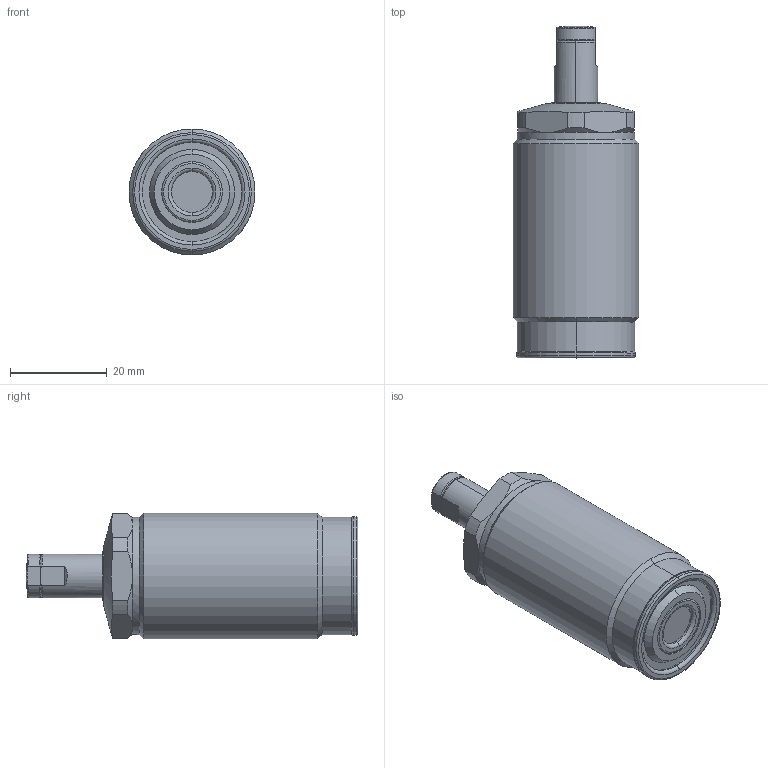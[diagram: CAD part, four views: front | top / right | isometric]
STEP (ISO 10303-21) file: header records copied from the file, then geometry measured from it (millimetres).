
FILE_DESCRIPTION(/* description */ (''),/* implementation_level */ '2;1');
FILE_NAME(/* name */ 'TNE26.stp',/* time_stamp */ '2025-01-09T15:36:08+08:00',/* author */ (''),/* organization */ (''),/* preprocessor_version */ 'ST-DEVELOPER v16.7',/* originating_system */ 'SIEMENS PLM Software NX 12.0',/* authorisation */ '');
FILE_SCHEMA (('AUTOMOTIVE_DESIGN { 1 0 10303 214 3 1 1 1 }'));
Length unit declared in the file: millimetre
Products named in the file (6): TNE26-01957; TNE26-04; TNE26-03; TNE26-05; TNE26-02; TNE26_stp
Assembly tree (5 placements, depth 2):
  TNE26_stp
    TNE26-02
    TNE26-05
    TNE26-03
    TNE26-04
    TNE26-01957
Bounding box: 26 x 68.5 x 26 mm (x, y, z)
Volume: 27156.1 mm3; surface area: 6652.2 mm2
Topology: 5 solids, 5 shells, 129 faces, 281 edges, 169 vertices
Faces by surface type: cylinder 38, torus 35, plane 34, cone 20, sphere 2
Full cylindrical faces by diameter (mm): 24.2 x1, 26 x1
Entity records: 3882 total; most frequent: CARTESIAN_POINT 845, DIRECTION 686, ORIENTED_EDGE 554, AXIS2_PLACEMENT_3D 306, EDGE_CURVE 277, CIRCLE 171, VERTEX_POINT 169, EDGE_LOOP 146
